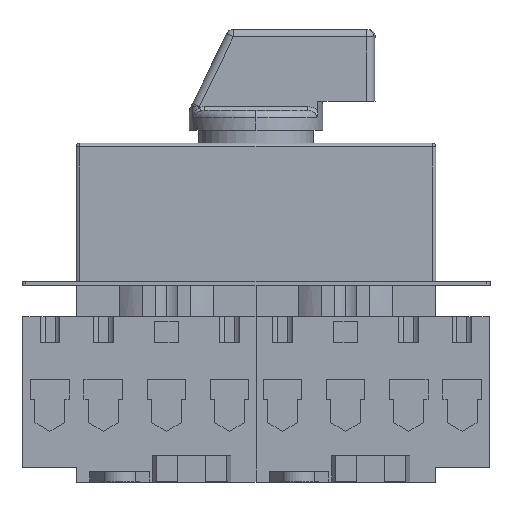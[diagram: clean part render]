
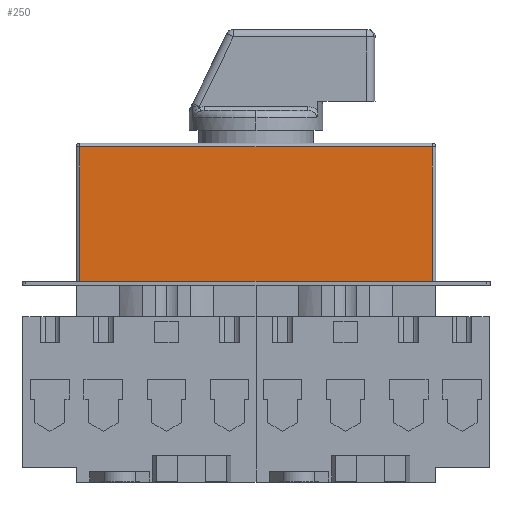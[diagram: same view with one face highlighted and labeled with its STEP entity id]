
A CAD part, top view. The second image highlights one B-rep face of the part: STEP entity #250.
In plain terms, the highlighted planar face has unit normal (0, 0, 1) as drawn and (-1, 0, 0) by its records, which use the part's own axes.
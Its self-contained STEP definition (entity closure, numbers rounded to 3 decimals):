
#26 = CARTESIAN_POINT ( 'NONE',  ( -22.5, 38., 47.2 ) ) ;
#250 = ADVANCED_FACE ( 'NONE', ( #365 ), #2418, .F. ) ;
#365 = FACE_OUTER_BOUND ( 'NONE', #12291, .T. ) ;
#683 = LINE ( 'NONE', #6770, #3527 ) ;
#1442 = VERTEX_POINT ( 'NONE', #14405 ) ;
#1618 = VERTEX_POINT ( 'NONE', #7705 ) ;
#2339 = VECTOR ( 'NONE', #7275, 1000. ) ;
#2340 = CARTESIAN_POINT ( 'NONE',  ( -22.5, 1., 47.2 ) ) ;
#2418 = PLANE ( 'NONE',  #4527 ) ;
#2696 = CARTESIAN_POINT ( 'NONE',  ( -22.5, 1., 48.2 ) ) ;
#3017 = CARTESIAN_POINT ( 'NONE',  ( -22.5, 38., -47.2 ) ) ;
#3271 = ORIENTED_EDGE ( 'NONE', *, *, #14463, .T. ) ;
#3527 = VECTOR ( 'NONE', #12827, 1000. ) ;
#3866 = EDGE_CURVE ( 'NONE', #1442, #5894, #13860, .T. ) ;
#3914 = DIRECTION ( 'NONE',  ( 0., 0., 1. ) ) ;
#4001 = DIRECTION ( 'NONE',  ( 0., -1., 0. ) ) ;
#4527 = AXIS2_PLACEMENT_3D ( 'NONE', #8599, #12514, #13093 ) ;
#5317 = LINE ( 'NONE', #2696, #14998 ) ;
#5548 = VECTOR ( 'NONE', #4001, 1000. ) ;
#5894 = VERTEX_POINT ( 'NONE', #12281 ) ;
#6770 = CARTESIAN_POINT ( 'NONE',  ( -22.5, 37., 48.2 ) ) ;
#7275 = DIRECTION ( 'NONE',  ( 0., 1., 0. ) ) ;
#7705 = CARTESIAN_POINT ( 'NONE',  ( -22.5, 37., 47.2 ) ) ;
#7780 = ORIENTED_EDGE ( 'NONE', *, *, #13278, .T. ) ;
#8599 = CARTESIAN_POINT ( 'NONE',  ( -22.5, 38., 48.2 ) ) ;
#9127 = VERTEX_POINT ( 'NONE', #2340 ) ;
#9831 = ORIENTED_EDGE ( 'NONE', *, *, #3866, .T. ) ;
#10748 = ORIENTED_EDGE ( 'NONE', *, *, #11946, .T. ) ;
#11946 = EDGE_CURVE ( 'NONE', #1618, #1442, #683, .T. ) ;
#12015 = LINE ( 'NONE', #26, #2339 ) ;
#12281 = CARTESIAN_POINT ( 'NONE',  ( -22.5, 1., -47.2 ) ) ;
#12291 = EDGE_LOOP ( 'NONE', ( #3271, #7780, #10748, #9831 ) ) ;
#12514 = DIRECTION ( 'NONE',  ( 1., 0., 0. ) ) ;
#12827 = DIRECTION ( 'NONE',  ( 0., 0., -1. ) ) ;
#13093 = DIRECTION ( 'NONE',  ( 0., 0., -1. ) ) ;
#13278 = EDGE_CURVE ( 'NONE', #9127, #1618, #12015, .T. ) ;
#13860 = LINE ( 'NONE', #3017, #5548 ) ;
#14405 = CARTESIAN_POINT ( 'NONE',  ( -22.5, 37., -47.2 ) ) ;
#14463 = EDGE_CURVE ( 'NONE', #5894, #9127, #5317, .T. ) ;
#14998 = VECTOR ( 'NONE', #3914, 1000. ) ;
